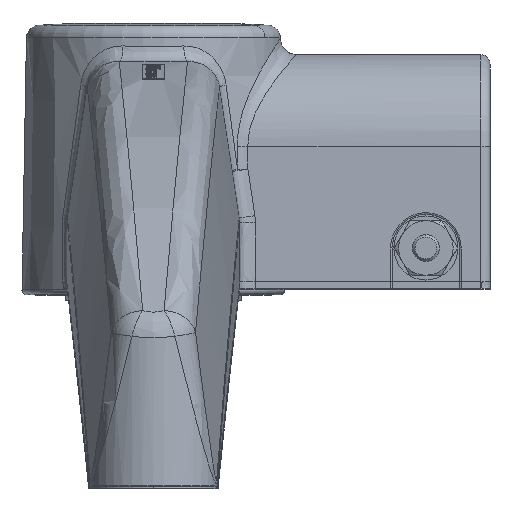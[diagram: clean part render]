
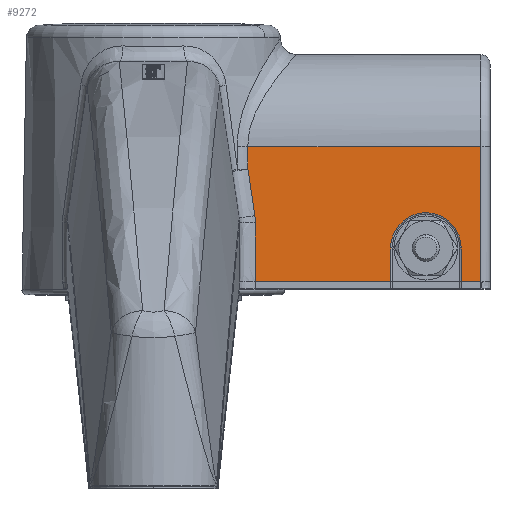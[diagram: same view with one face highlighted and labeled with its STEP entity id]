
A CAD part, top view. The second image highlights one B-rep face of the part: STEP entity #9272.
In plain terms, the highlighted planar face has unit normal (0, 0.018, 1) as drawn and (0, -1, 0.017) by its records, which use the part's own axes.
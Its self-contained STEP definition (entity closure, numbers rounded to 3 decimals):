
#4672=CARTESIAN_POINT('Vertex',(29.468,-29.264,106.242)) ;
#4730=CARTESIAN_POINT('Vertex',(29.513,-29.388,99.168)) ;
#4734=CARTESIAN_POINT('Control Point',(29.513,-29.388,99.168)) ;
#4735=CARTESIAN_POINT('Control Point',(29.504,-29.363,100.582)) ;
#4736=CARTESIAN_POINT('Control Point',(29.495,-29.338,101.997)) ;
#4737=CARTESIAN_POINT('Control Point',(29.486,-29.314,103.412)) ;
#4738=CARTESIAN_POINT('Control Point',(29.477,-29.289,104.827)) ;
#4739=CARTESIAN_POINT('Control Point',(29.468,-29.264,106.242)) ;
#7071=CARTESIAN_POINT('Vertex',(102.,-30.,64.09)) ;
#7091=CARTESIAN_POINT('Line Origine',(99.,-30.,64.09)) ;
#7095=CARTESIAN_POINT('Vertex',(96.,-30.,64.09)) ;
#7263=CARTESIAN_POINT('Vertex',(74.,-30.,64.09)) ;
#7278=CARTESIAN_POINT('Line Origine',(52.916,-30.,64.09)) ;
#7282=CARTESIAN_POINT('Vertex',(31.832,-30.,64.09)) ;
#9176=CARTESIAN_POINT('Line Origine',(66.,-29.264,106.242)) ;
#9180=CARTESIAN_POINT('Vertex',(102.,-29.264,106.242)) ;
#9196=CARTESIAN_POINT('Axis2P3D Location',(27.,-29.264,106.242)) ;
#9201=CARTESIAN_POINT('Line Origine',(102.,-29.632,85.166)) ;
#9207=CARTESIAN_POINT('Control Point',(29.513,-29.388,99.168)) ;
#9208=CARTESIAN_POINT('Control Point',(29.945,-29.438,96.27)) ;
#9209=CARTESIAN_POINT('Control Point',(30.376,-29.489,93.373)) ;
#9210=CARTESIAN_POINT('Control Point',(30.807,-29.539,90.476)) ;
#9211=CARTESIAN_POINT('Control Point',(31.238,-29.59,87.58)) ;
#9212=CARTESIAN_POINT('Control Point',(31.669,-29.641,84.685)) ;
#9213=CARTESIAN_POINT('Vertex',(31.669,-29.641,84.685)) ;
#9217=CARTESIAN_POINT('Control Point',(31.835,-29.68,82.446)) ;
#9218=CARTESIAN_POINT('Control Point',(31.835,-29.676,82.643)) ;
#9219=CARTESIAN_POINT('Control Point',(31.832,-29.673,82.841)) ;
#9220=CARTESIAN_POINT('Control Point',(31.825,-29.669,83.039)) ;
#9221=CARTESIAN_POINT('Control Point',(31.804,-29.661,83.488)) ;
#9222=CARTESIAN_POINT('Control Point',(31.765,-29.654,83.936)) ;
#9223=CARTESIAN_POINT('Control Point',(31.738,-29.649,84.186)) ;
#9224=CARTESIAN_POINT('Control Point',(31.707,-29.645,84.436)) ;
#9225=CARTESIAN_POINT('Control Point',(31.669,-29.641,84.685)) ;
#9226=CARTESIAN_POINT('Vertex',(31.835,-29.68,82.446)) ;
#9230=CARTESIAN_POINT('Control Point',(31.832,-30.,64.09)) ;
#9231=CARTESIAN_POINT('Control Point',(31.832,-29.977,65.4)) ;
#9232=CARTESIAN_POINT('Control Point',(31.832,-29.954,66.711)) ;
#9233=CARTESIAN_POINT('Control Point',(31.833,-29.931,68.022)) ;
#9234=CARTESIAN_POINT('Control Point',(31.833,-29.867,71.693)) ;
#9235=CARTESIAN_POINT('Control Point',(31.834,-29.803,75.364)) ;
#9236=CARTESIAN_POINT('Control Point',(31.834,-29.762,77.724)) ;
#9237=CARTESIAN_POINT('Control Point',(31.835,-29.721,80.085)) ;
#9238=CARTESIAN_POINT('Control Point',(31.835,-29.68,82.446)) ;
#9240=CARTESIAN_POINT('Line Origine',(74.,-29.908,69.339)) ;
#9244=CARTESIAN_POINT('Vertex',(74.,-29.817,74.588)) ;
#9247=CARTESIAN_POINT('Axis2P3D Location',(85.,-29.817,74.588)) ;
#9251=CARTESIAN_POINT('Vertex',(96.,-29.817,74.588)) ;
#9254=CARTESIAN_POINT('Line Origine',(96.,-29.908,69.339)) ;
#7092=DIRECTION('Vector Direction',(1.,0.,0.)) ;
#7279=DIRECTION('Vector Direction',(1.,0.,0.)) ;
#9177=DIRECTION('Vector Direction',(-1.,0.,0.)) ;
#9197=DIRECTION('Axis2P3D Direction',(0.,-1.,0.017)) ;
#9198=DIRECTION('Axis2P3D XDirection',(0.,-0.017,-1.)) ;
#9202=DIRECTION('Vector Direction',(0.,-0.017,-1.)) ;
#9241=DIRECTION('Vector Direction',(0.,0.017,1.)) ;
#9248=DIRECTION('Axis2P3D Direction',(0.,-1.,0.017)) ;
#9255=DIRECTION('Vector Direction',(0.,0.017,1.)) ;
#9199=AXIS2_PLACEMENT_3D('Plane Axis2P3D',#9196,#9197,#9198) ;
#9249=AXIS2_PLACEMENT_3D('Circle Axis2P3D',#9247,#9248,$) ;
#9260=ORIENTED_EDGE('',*,*,#7097,.T.) ;
#9261=ORIENTED_EDGE('',*,*,#9205,.T.) ;
#9262=ORIENTED_EDGE('',*,*,#9182,.F.) ;
#9263=ORIENTED_EDGE('',*,*,#4740,.F.) ;
#9264=ORIENTED_EDGE('',*,*,#9215,.T.) ;
#9265=ORIENTED_EDGE('',*,*,#9228,.T.) ;
#9266=ORIENTED_EDGE('',*,*,#9239,.T.) ;
#9267=ORIENTED_EDGE('',*,*,#7284,.T.) ;
#9268=ORIENTED_EDGE('',*,*,#9246,.T.) ;
#9269=ORIENTED_EDGE('',*,*,#9253,.T.) ;
#9270=ORIENTED_EDGE('',*,*,#9258,.T.) ;
#7093=VECTOR('Line Direction',#7092,1.) ;
#7280=VECTOR('Line Direction',#7279,1.) ;
#9178=VECTOR('Line Direction',#9177,1.) ;
#9203=VECTOR('Line Direction',#9202,1.) ;
#9242=VECTOR('Line Direction',#9241,1.) ;
#9256=VECTOR('Line Direction',#9255,1.) ;
#9272=ADVANCED_FACE('PartBody',(#9271),#9200,.T.) ;
#4733=B_SPLINE_CURVE_WITH_KNOTS('',5,(#4734,#4735,#4736,#4737,#4738,#4739),.UNSPECIFIED.,.F.,.U.,(6,6),(77.139,87.146),.UNSPECIFIED.) ;
#9206=B_SPLINE_CURVE_WITH_KNOTS('',5,(#9207,#9208,#9209,#9210,#9211,#9212),.UNSPECIFIED.,.F.,.U.,(6,6),(50.399,71.219),.UNSPECIFIED.) ;
#9216=B_SPLINE_CURVE_WITH_KNOTS('',5,(#9217,#9218,#9219,#9220,#9221,#9222,#9223,#9224,#9225),.UNSPECIFIED.,.F.,.U.,(6,3,6),(16.414,20.928,26.674),.UNSPECIFIED.) ;
#9229=B_SPLINE_CURVE_WITH_KNOTS('',5,(#9230,#9231,#9232,#9233,#9234,#9235,#9236,#9237,#9238),.UNSPECIFIED.,.F.,.U.,(6,3,6),(114.231,123.5,140.194),.UNSPECIFIED.) ;
#9250=CIRCLE('generated circle',#9249,11.) ;
#4740=EDGE_CURVE('',#4731,#4673,#4733,.T.) ;
#7097=EDGE_CURVE('',#7096,#7072,#7094,.T.) ;
#7284=EDGE_CURVE('',#7283,#7264,#7281,.T.) ;
#9182=EDGE_CURVE('',#4673,#9181,#9179,.F.) ;
#9205=EDGE_CURVE('',#7072,#9181,#9204,.F.) ;
#9215=EDGE_CURVE('',#4731,#9214,#9206,.T.) ;
#9228=EDGE_CURVE('',#9214,#9227,#9216,.F.) ;
#9239=EDGE_CURVE('',#9227,#7283,#9229,.F.) ;
#9246=EDGE_CURVE('',#7264,#9245,#9243,.T.) ;
#9253=EDGE_CURVE('',#9245,#9252,#9250,.F.) ;
#9258=EDGE_CURVE('',#9252,#7096,#9257,.F.) ;
#9259=EDGE_LOOP('',(#9260,#9261,#9262,#9263,#9264,#9265,#9266,#9267,#9268,#9269,#9270)) ;
#9271=FACE_OUTER_BOUND('',#9259,.T.) ;
#7094=LINE('Line',#7091,#7093) ;
#7281=LINE('Line',#7278,#7280) ;
#9179=LINE('Line',#9176,#9178) ;
#9204=LINE('Line',#9201,#9203) ;
#9243=LINE('Line',#9240,#9242) ;
#9257=LINE('Line',#9254,#9256) ;
#9200=PLANE('',#9199) ;
#4673=VERTEX_POINT('',#4672) ;
#4731=VERTEX_POINT('',#4730) ;
#7072=VERTEX_POINT('',#7071) ;
#7096=VERTEX_POINT('',#7095) ;
#7264=VERTEX_POINT('',#7263) ;
#7283=VERTEX_POINT('',#7282) ;
#9181=VERTEX_POINT('',#9180) ;
#9214=VERTEX_POINT('',#9213) ;
#9227=VERTEX_POINT('',#9226) ;
#9245=VERTEX_POINT('',#9244) ;
#9252=VERTEX_POINT('',#9251) ;
